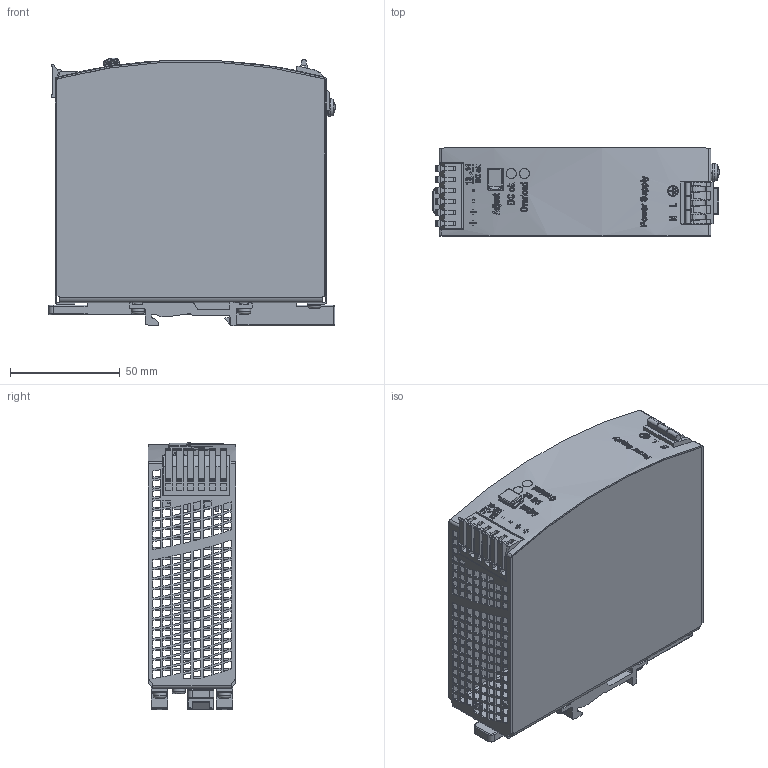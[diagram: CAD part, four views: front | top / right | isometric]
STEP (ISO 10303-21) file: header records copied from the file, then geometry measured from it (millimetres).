
FILE_DESCRIPTION((''),'2;1');
FILE_NAME('C:\Dokumente und Einstellungen\raabk-neu\Eigene Dateien\tmp\MOCKUP\QS5.241.stp','2007-12-03T14:07:00',('raabk'),(''),'Autodesk Inventor 11','Autodesk Inventor 11','');
FILE_SCHEMA(('AUTOMOTIVE_DESIGN { 1 0 10303 214 1 1 1 1 }'));
Length unit declared in the file: millimetre
Products named in the file (13): 348.00; HOUSING COVER 348.00; HOUSING BODY 348.00; TERMINAL 3P R6,35; TERMINAL 6P R5; WASHER 4; SCREW 4x8; SLIDER; SCREW 3x6; T HOLDER; POTENTIOMETER COVER; LED GN; LED RD
Assembly tree (18 placements, depth 2):
  348.00
    HOUSING COVER 348.00
    HOUSING BODY 348.00
    TERMINAL 3P R6,35
    TERMINAL 6P R5
    WASHER 4
    SCREW 4x8
    SLIDER
    SCREW 3x6  x6
    T HOLDER  x2
    POTENTIOMETER COVER
    LED GN
    LED RD
Bounding box: 130.77 x 40 x 121.98 mm (x, y, z)
Volume: 78858.4 mm3; surface area: 101389.1 mm2
Topology: 18 solids, 18 shells, 2595 faces, 7354 edges, 4880 vertices
Faces by surface type: plane 1903, bspline 326, cylinder 307, torus 26, cone 20, sphere 13
Full cylindrical faces by diameter (mm): 1 x6, 1.25 x3, 3 x6, 3.1 x4, 3.621 x1, 4 x1, 4.355 x1, 4.5 x1, 4.6 x2, 5 x3, 6 x6
Entity records: 167304 total; most frequent: CARTESIAN_POINT 103877, ORIENTED_EDGE 13948, DIRECTION 11030, EDGE_CURVE 6974, VECTOR 5450, LINE 5450, VERTEX_POINT 4641, EDGE_LOOP 3161
